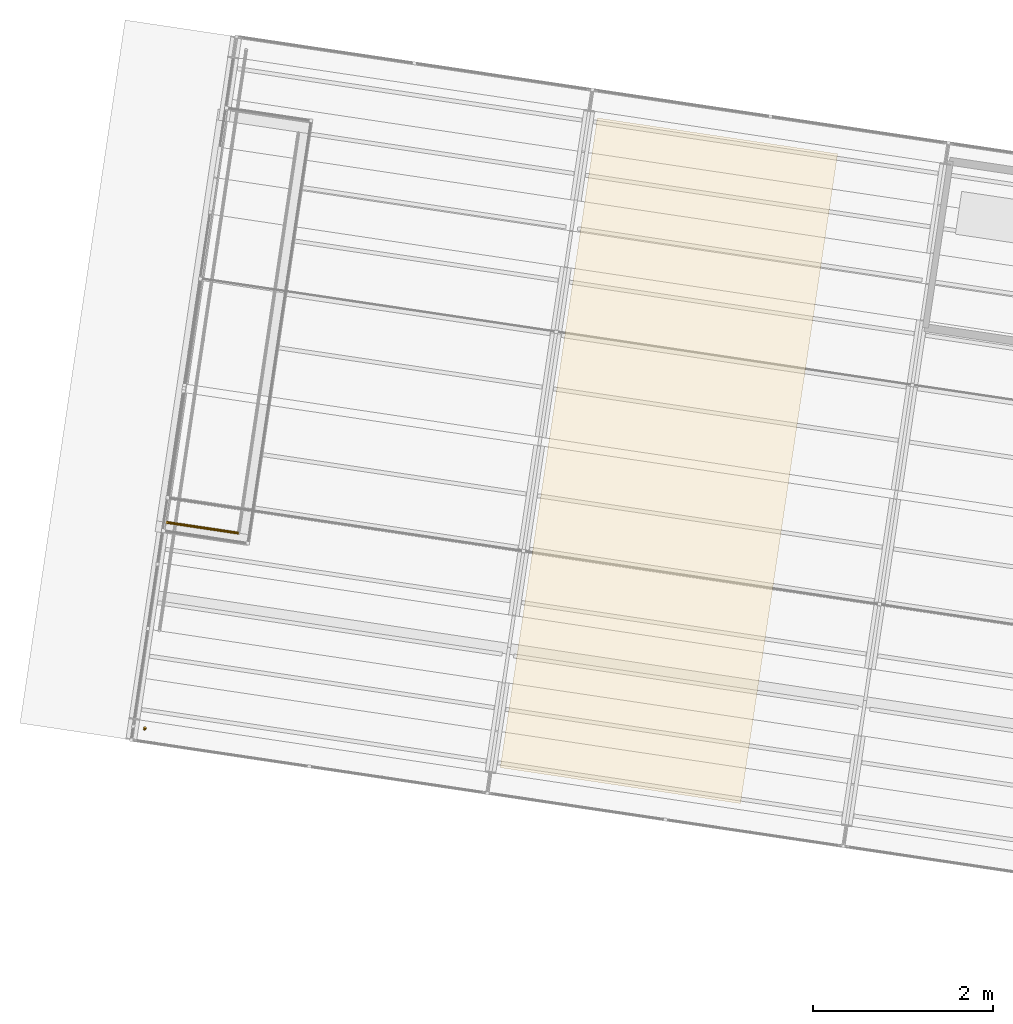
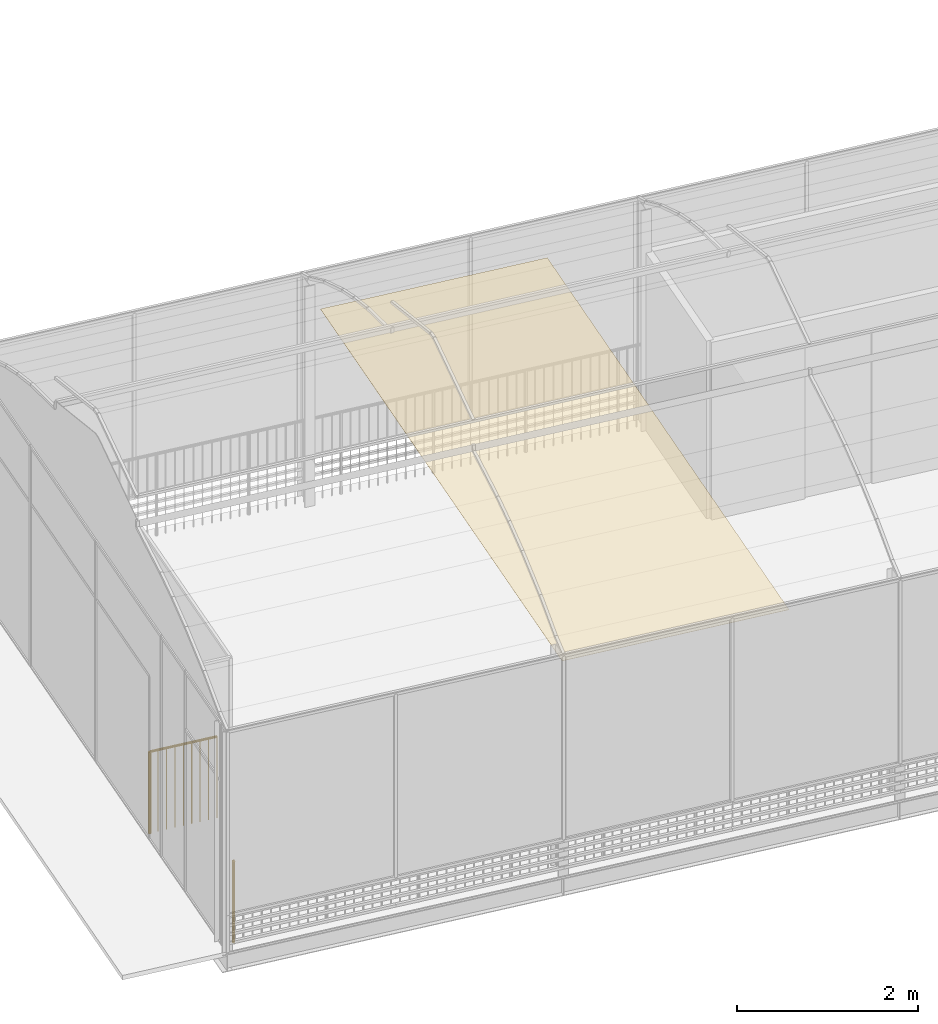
# One storey, part 30 of 34: 2 railings, 1 covering.
"""IFC4 building model written with IfcOpenShell, lengths in metres."""

from ifc_helpers import new_model, si_unit, direction, frame, origin_with_axes, place, context, subcontext, project, spatial, polyline, circle, outline, extrude, material, element, save


model = new_model("IFC4")

# Units and contexts
model_context = context("Model", 3, precision=1e-05, world=origin_with_axes(), true_north=direction((0.0, 1.0)))
body_context = subcontext(model_context, "Body", "Model", "MODEL_VIEW")
ifc_project = project(units=[si_unit("AREAUNIT", "SQUARE_METRE"), si_unit("VOLUMEUNIT", "CUBIC_METRE"), si_unit("LENGTHUNIT", "METRE")], contexts=[model_context])

# Site, building, storey
site_placement = place(None, origin_with_axes())
site = spatial("IfcSite", under=ifc_project, at=site_placement, Name="Lares · Rua das Mercês · artigo 4771")
building_placement = place(site_placement, frame((15.0, 9.7, 14.65), z_axis=(0.0, 0.0, 1.0), x_axis=(0.989015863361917, -0.147809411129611, 0.0)))
building = spatial("IfcBuilding", under=site, at=building_placement, Name="Casa Sobreposta")
storey_placement = place(building_placement, frame((0.0, 0.0, 3.24), z_axis=(0.0, 0.0, 1.0), x_axis=(1.0, 0.0, 0.0)))
storey = spatial("IfcBuildingStorey", under=building, at=storey_placement, Name="01 · Jardim de inverno", Elevation=17.89)

# Railing
ifc_material_1 = material(Name="Aço pintado / Stahl lackiert", Category="steel")
railing_1_placement = place(storey_placement, frame((0.0, 0.0, -3.24), z_axis=(0.0, 0.0, 1.0), x_axis=(1.0, 0.0, 0.0)))
element("IfcRailing", 1, at=railing_1_placement, inside=storey, material=ifc_material_1, Name="Guarda perimetral da estufa", PredefinedType="GUARDRAIL", context=body_context, shape_type="SweptSolid", body=[
    extrude(circle(Radius=0.015), frame((0.13, -1.35, 4.34), z_axis=(0.0, -1.0, 0.0), x_axis=(-1.0, 0.0, 0.0)), (0.0, 0.0, 1.0), 0.02),
    extrude(circle(Radius=0.0175), frame((0.13, -1.35, 3.24), z_axis=(0.0, 0.0, 1.0), x_axis=(1.0, 0.0, 0.0)), (0.0, 0.0, 1.0), 1.1),
    extrude(circle(Radius=0.006), frame((0.13, -1.37, 3.24), z_axis=(0.0, 0.0, 1.0), x_axis=(1.0, 0.0, 0.0)), (0.0, 0.0, 1.0), 1.1),
])

# Covering
ifc_material_2 = material(Name="Tecido de sombreamento — hipótese", Category="fabric")
covering_placement = place(storey_placement, frame((0.0, 0.0, 2.68), z_axis=(0.0, 0.0, 1.0), x_axis=(1.0, 0.0, 0.0)))
element("IfcCovering", 2, at=covering_placement, inside=storey, material=ifc_material_2, Name="Cortina interior · 75%", ObjectType="Cortina interior · 75%", PredefinedType="USERDEFINED", context=body_context, shape_type="SweptSolid", body=[
    extrude(outline(polyline([(6.8, -1.2), (6.8, 6.1), (4.1, 6.1), (4.1, -1.2), (6.8, -1.2)])), origin_with_axes(), (0.0, 0.0, 1.0), 0.004),
])

# Railing
railing_2_placement = place(storey_placement, frame((0.0, 0.0, -3.24), z_axis=(0.0, 0.0, 1.0), x_axis=(1.0, 0.0, 0.0)))
element("IfcRailing", 3, at=railing_2_placement, inside=storey, material=ifc_material_1, Name="Guarda do vazio", PredefinedType="GUARDRAIL", context=body_context, shape_type="SweptSolid", body=[
    extrude(circle(Radius=0.015), frame((0.04, 0.9475, 4.34), z_axis=(1.0, 0.0, 0.0), x_axis=(0.0, -1.0, 0.0)), (0.0, 0.0, 1.0), 0.8),
    extrude(circle(Radius=0.0175), frame((0.04, 0.9475, 3.24), z_axis=(0.0, 0.0, 1.0), x_axis=(1.0, 0.0, 0.0)), (0.0, 0.0, 1.0), 1.1),
    extrude(circle(Radius=0.006), frame((0.14, 0.9475, 3.24), z_axis=(0.0, 0.0, 1.0), x_axis=(1.0, 0.0, 0.0)), (0.0, 0.0, 1.0), 1.1),
    extrude(circle(Radius=0.006), frame((0.24, 0.9475, 3.24), z_axis=(0.0, 0.0, 1.0), x_axis=(1.0, 0.0, 0.0)), (0.0, 0.0, 1.0), 1.1),
    extrude(circle(Radius=0.006), frame((0.34, 0.9475, 3.24), z_axis=(0.0, 0.0, 1.0), x_axis=(1.0, 0.0, 0.0)), (0.0, 0.0, 1.0), 1.1),
    extrude(circle(Radius=0.006), frame((0.44, 0.9475, 3.24), z_axis=(0.0, 0.0, 1.0), x_axis=(1.0, 0.0, 0.0)), (0.0, 0.0, 1.0), 1.1),
    extrude(circle(Radius=0.006), frame((0.54, 0.9475, 3.24), z_axis=(0.0, 0.0, 1.0), x_axis=(1.0, 0.0, 0.0)), (0.0, 0.0, 1.0), 1.1),
    extrude(circle(Radius=0.006), frame((0.64, 0.9475, 3.24), z_axis=(0.0, 0.0, 1.0), x_axis=(1.0, 0.0, 0.0)), (0.0, 0.0, 1.0), 1.1),
    extrude(circle(Radius=0.006), frame((0.74, 0.9475, 3.24), z_axis=(0.0, 0.0, 1.0), x_axis=(1.0, 0.0, 0.0)), (0.0, 0.0, 1.0), 1.1),
    extrude(circle(Radius=0.006), frame((0.84, 0.9475, 3.24), z_axis=(0.0, 0.0, 1.0), x_axis=(1.0, 0.0, 0.0)), (0.0, 0.0, 1.0), 1.1),
])

save(model, "model.ifc")
